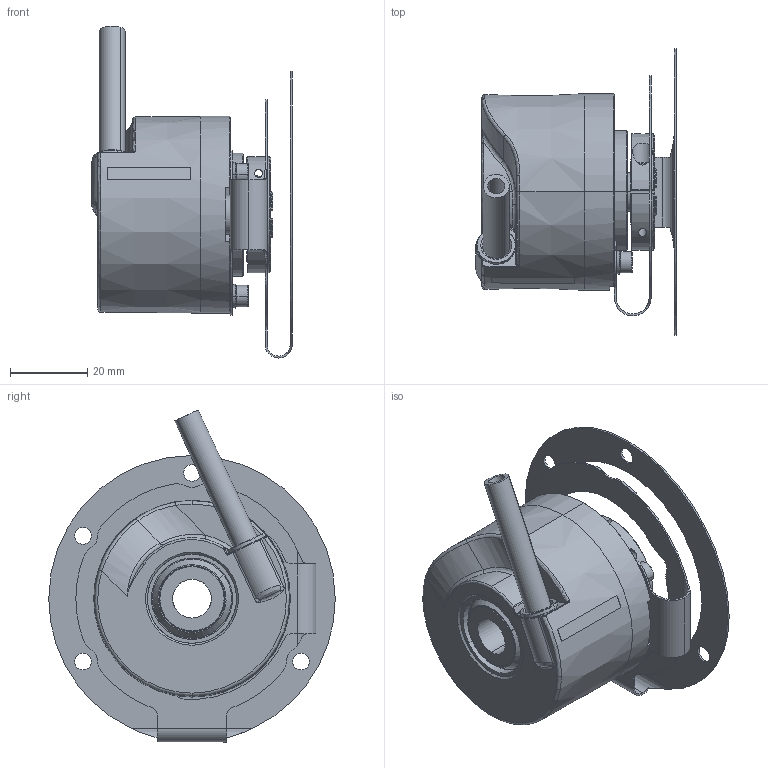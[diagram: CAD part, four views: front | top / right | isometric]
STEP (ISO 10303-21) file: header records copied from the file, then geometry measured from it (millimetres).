
FILE_DESCRIPTION (( 'STEP AP214' ), '1' );
FILE_NAME ('8.5020.83XE.XXXX.STEP', '2011-01-10T07:52:03', ( 'admin' ), ( 'Fritz Kübler GmbH' ), 'SwSTEP 2.0', 'SolidWorks 2009', '' );
FILE_SCHEMA (( 'AUTOMOTIVE_DESIGN' ));
Length unit declared in the file: millimetre
Products named in the file (1): 8.5020.83XE.XXXX
Bounding box: 51.8 x 74 x 85.74 mm (x, y, z)
Surface area: 23875.2 mm2 (no closed solid volume)
Topology: 0 solids, 15 shells, 272 faces, 821 edges, 543 vertices
Faces by surface type: cylinder 129, plane 63, cone 46, torus 17, bspline 17
Entity records: 14917 total; most frequent: CARTESIAN_POINT 4591, DIRECTION 1594, ORIENTED_EDGE 1414, EDGE_CURVE 811, AXIS2_PLACEMENT_3D 644, VERTEX_POINT 543, CIRCLE 388, EDGE_LOOP 314
